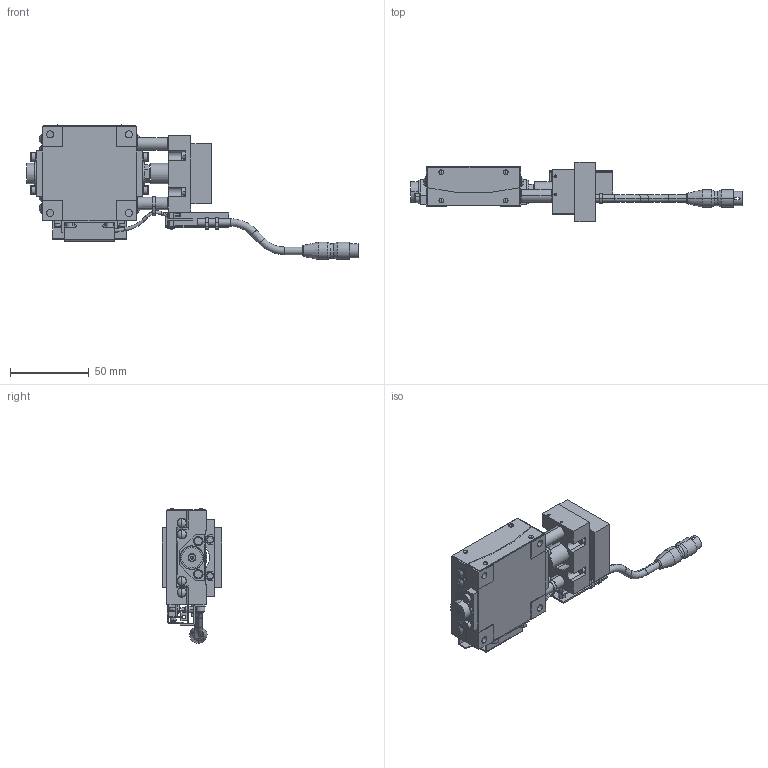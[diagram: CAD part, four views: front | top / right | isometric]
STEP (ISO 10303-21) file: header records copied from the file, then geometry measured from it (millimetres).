
FILE_DESCRIPTION (( 'STEP AP203' ), '1' );
FILE_NAME ('KGB06100MV-LS38.STEP', '2024-03-25T09:00:59', ( '' ), ( '' ), 'SwSTEP 2.0', 'SolidWorks 2017', '' );
FILE_SCHEMA (( 'CONFIG_CONTROL_DESIGN' ));
Length unit declared in the file: millimetre
Products named in the file (6): KGB-60-S38_CADENAS; KGB-TOP-06100-L; KGB06100MV-LS38; 60-S38_C; 60-T-6-L; KGB-BASE-06100-L
Assembly tree (5 placements, depth 2):
  KGB06100MV-LS38
    KGB-BASE-06100-L
    KGB-TOP-06100-L
    KGB-60-S38_CADENAS
    60-T-6-L
    60-S38_C
Bounding box: 211.2 x 38 x 85.9 mm (x, y, z)
Volume: 131330.7 mm3; surface area: 51902.9 mm2
Topology: 5 solids, 35 shells, 973 faces, 2323 edges, 1487 vertices
Faces by surface type: plane 398, cylinder 395, cone 90, torus 50, sphere 32, bspline 8
Entity records: 29613 total; most frequent: CARTESIAN_POINT 5559, DIRECTION 5273, ORIENTED_EDGE 4574, EDGE_CURVE 2287, AXIS2_PLACEMENT_3D 2049, VERTEX_POINT 1487, VECTOR 1175, LINE 1175
